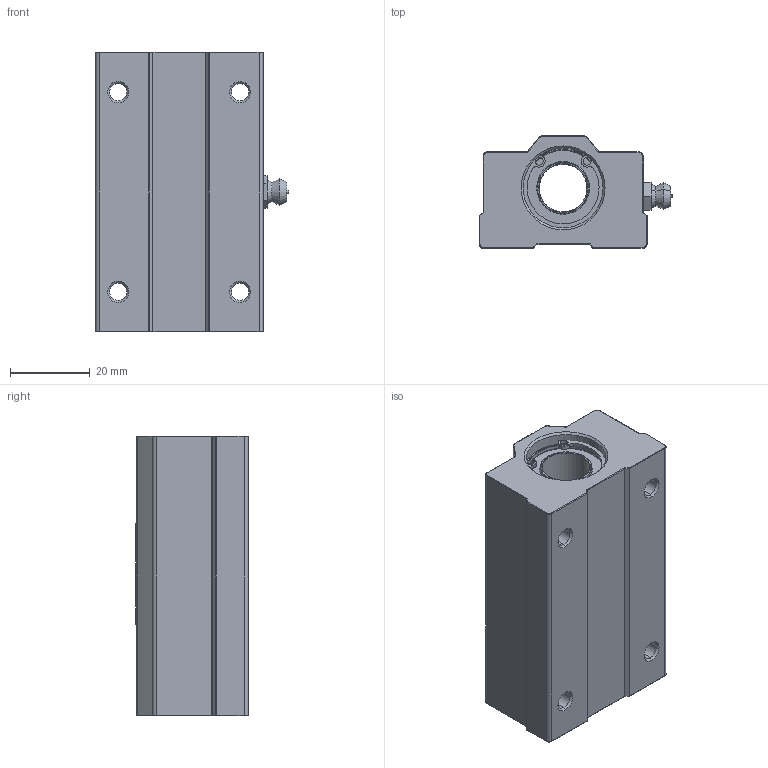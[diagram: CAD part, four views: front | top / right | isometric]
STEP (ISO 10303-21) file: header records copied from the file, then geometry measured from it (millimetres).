
FILE_DESCRIPTION (( 'STEP AP214' ), '1' );
FILE_NAME ('SC12LUU.STEP', '2020-09-23T10:19:44', ( '' ), ( '' ), 'SwSTEP 2.0', 'SolidWorks 2018', '' );
FILE_SCHEMA (( 'AUTOMOTIVE_DESIGN' ));
Length unit declared in the file: millimetre
Products named in the file (5): SC12LUU-04_5å4,5; SC12LUU; SC12LUU-02; SC12LUU-03; SC12LUU-01
Assembly tree (5 placements, depth 2):
  SC12LUU
    SC12LUU-01
    SC12LUU-02
    SC12LUU-03  x2
    SC12LUU-04_5å4,5
Bounding box: 48.45 x 28.1 x 70 mm (x, y, z)
Volume: 60711.7 mm3; surface area: 24417.9 mm2
Topology: 6 solids, 6 shells, 405 faces, 996 edges, 618 vertices
Faces by surface type: plane 161, cylinder 114, torus 48, bspline 38, cone 34, sphere 10
Entity records: 15278 total; most frequent: CARTESIAN_POINT 4242, DIRECTION 1894, ORIENTED_EDGE 1880, EDGE_CURVE 940, AXIS2_PLACEMENT_3D 672, VERTEX_POINT 585, VECTOR 550, LINE 550
